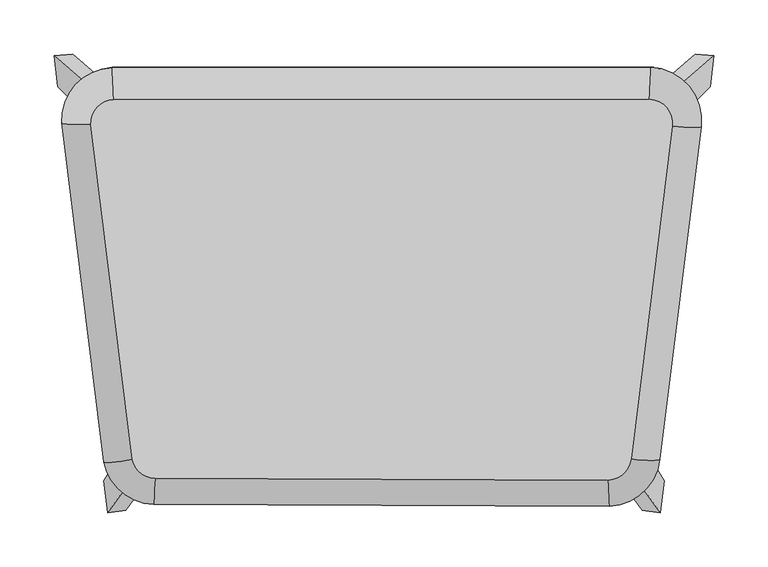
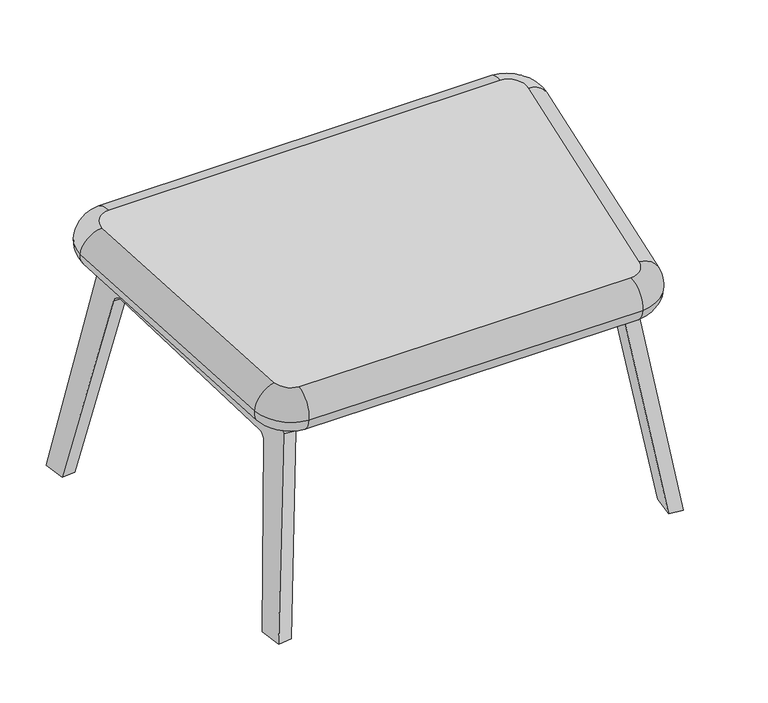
"""IFC4 building model written with IfcOpenShell, lengths in millimetres: furniture geometry, Ottoman_Bensen_Park_PRK000 : Ottoman_Bensen_Park_PRK000."""

from ifc_helpers import new_model, si_unit, point, frame, origin, place, context, project, spatial, polyline, circle_curve, ellipse_curve, trimmed, source, transform, mapped, element, save
from ifc_brep_helpers import plane_surface, cylinder_surface, revolved_surface, advanced_brep


def furniture_a147c030(model_context):
    return source(origin(), model_context, "Body", "AdvancedBrep", [
        advanced_brep(
        [(-232.5387582, -158.711869, 311.3773403), (-211.6892906, -176.5200523, 309.5255155), (207.0878992, -177.9890283, 309.3727607), (228.37479, -158.462074, 311.4033158), (266.3961492, 149.5362763, 343.4312298), (245.3605462, 174.4767701, 346.0247242), (-249.8806396, 174.2379537, 345.9998903), (-271.0377758, 150.9891698, 343.5823123), (-211.6892906, -170.9348547, 255.8151295), (-232.5387582, -153.1266715, 257.6669542), (-271.0377758, 156.5743674, 289.8719263), (-249.8806396, 179.8231512, 292.2895043), (245.3605462, 180.0619676, 292.3143382), (266.3961492, 155.1214739, 289.7208438), (228.37479, -152.8768764, 257.6929297), (207.0878992, -172.4038307, 255.6623747), (-212.9954878, -200.5512022, 279.8809935), (-258.9999981, -161.2573092, 283.967059), (208.2038481, -202.0286745, 279.7273552), (255.1735361, -158.9422999, 284.2077906), (293.1948953, 149.0560504, 316.2357046), (246.7796758, 204.0874412, 321.9582699), (-251.3259128, 203.8472436, 321.9332924), (-298.0092962, 152.5486235, 316.5988879)],
        [
            (0, 1, circle_curve(frame((-210.6066641, -154.2874969, 311.8374187), z_axis=(0.0, -0.1034295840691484, 0.9946367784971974), x_axis=(-0.9800459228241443, -0.1977051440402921, -0.02055882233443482)), 22.3786392)),
            (1, 2, circle_curve(frame((14.1458076, 4461.1745888, 791.7868175), z_axis=(0.0, -0.1034295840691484, 0.9946367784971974), x_axis=(-0.04837767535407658, -0.9934721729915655, -0.10330847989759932)), 4668.1676318)),
            (2, 3, circle_curve(frame((206.1629578, -155.7494308, 311.6853962), z_axis=(0.0, -0.1034295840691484, 0.9946367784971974), x_axis=(0.04133144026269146, -0.9937868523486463, -0.10334120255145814)), 22.3786392)),
            (3, 4),
            (4, 5, circle_curve(frame((244.184317, 152.2489194, 343.7133102), z_axis=(0.0, -0.1034295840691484, 0.9946367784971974), x_axis=(0.992546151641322, -0.12121573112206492, -0.012604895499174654)), 22.3786392)),
            (5, 6, circle_curve(frame((0.0, -4462.2364732, -136.1345248), z_axis=(0.0, -0.1034295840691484, 0.9946367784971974), x_axis=(0.05256035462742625, 0.9932619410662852, 0.10328661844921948)), 4668.1676318)),
            (6, 7, circle_curve(frame((-248.6827416, 152.0112479, 343.6885954), z_axis=(0.0, -0.1034295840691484, 0.9946367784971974), x_axis=(-0.053528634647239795, 0.9932107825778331, 0.10328129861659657)), 22.3786392)),
            (7, 0, circle_curve(frame((1763.8766912, 244.0259974, 353.2569599), z_axis=(0.0, -0.1034295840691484, 0.9946367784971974), x_axis=(-0.9989451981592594, -0.04567203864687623, -0.004749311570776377)), 2037.063165)),
            (8, 9, circle_curve(frame((-210.6066641, -148.7022994, 258.1270327), z_axis=(0.0, 0.1034295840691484, -0.9946367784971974), x_axis=(-0.9800459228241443, -0.1977051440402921, -0.02055882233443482)), 22.3786392)),
            (9, 10, circle_curve(frame((1763.8766912, 249.611195, 299.5465739), z_axis=(0.0, 0.1034295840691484, -0.9946367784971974), x_axis=(-0.9989451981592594, -0.04567203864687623, -0.004749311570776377)), 2037.063165)),
            (10, 11, circle_curve(frame((-248.6827416, 157.5964454, 289.9782094), z_axis=(0.0, 0.1034295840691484, -0.9946367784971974), x_axis=(-0.053528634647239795, 0.9932107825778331, 0.10328129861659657)), 22.3786392)),
            (11, 12, circle_curve(frame((0.0, -4456.6512756, -189.8449109), z_axis=(0.0, 0.1034295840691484, -0.9946367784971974), x_axis=(0.05256035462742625, 0.9932619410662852, 0.10328661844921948)), 4668.1676318)),
            (12, 13, circle_curve(frame((244.184317, 157.834117, 290.0029242), z_axis=(0.0, 0.1034295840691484, -0.9946367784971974), x_axis=(0.992546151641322, -0.12121573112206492, -0.012604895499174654)), 22.3786392)),
            (13, 14),
            (14, 15, circle_curve(frame((206.1629578, -150.1642333, 257.9750101), z_axis=(0.0, 0.1034295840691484, -0.9946367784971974), x_axis=(0.04133144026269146, -0.9937868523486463, -0.10334120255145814)), 22.3786392)),
            (15, 8, circle_curve(frame((14.1458076, 4466.7597864, 738.0764314), z_axis=(0.0, 0.1034295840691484, -0.9946367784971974), x_axis=(-0.04837767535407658, -0.9934721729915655, -0.10330847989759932)), 4668.1676318)),
            (16, 17, circle_curve(frame((-210.6066641, -151.4948982, 284.9822257), z_axis=(0.0, 0.1034295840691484, -0.9946367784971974), x_axis=(-0.9800459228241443, -0.1977051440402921, -0.02055882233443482)), 49.3786392)),
            (17, 9, circle_curve(frame((-232.5387582, -155.9192703, 284.5221472), z_axis=(0.19877119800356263, -0.9747897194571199, -0.10136574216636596), x_axis=(-0.9800459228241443, -0.19770514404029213, -0.020558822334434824)), 27.0)),
            (8, 16, circle_curve(frame((-211.6892906, -173.7274535, 282.6703225), z_axis=(-0.9988291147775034, 0.04811821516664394, 0.005003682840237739), x_axis=(-0.04837767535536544, -0.9934721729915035, -0.10330847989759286)), 27.0)),
            (16, 1, circle_curve(frame((-211.6892906, -173.7274535, 282.6703225), z_axis=(-0.9988291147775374, 0.048118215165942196, 0.00500368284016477), x_axis=(-0.04837767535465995, -0.9934721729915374, -0.1033084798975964)), 27.0)),
            (0, 17, circle_curve(frame((-232.5387582, -155.9192703, 284.5221472), z_axis=(0.19877119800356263, -0.9747897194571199, -0.10136574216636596), x_axis=(-0.9800459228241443, -0.19770514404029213, -0.020558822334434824)), 27.0)),
            (15, 18, circle_curve(frame((207.0878992, -175.1964295, 282.5175677), z_axis=(-0.9991454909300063, -0.04110977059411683, -0.004274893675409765), x_axis=(0.04133144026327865, -0.9937868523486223, -0.10334120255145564)), 27.0)),
            (18, 16, circle_curve(frame((14.1458076, 4463.9671876, 764.9316245), z_axis=(0.0, 0.1034295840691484, -0.9946367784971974), x_axis=(-0.04837767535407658, -0.9934721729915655, -0.10330847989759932)), 4695.1676318)),
            (18, 2, circle_curve(frame((207.0878992, -175.1964295, 282.5175677), z_axis=(-0.9991454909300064, -0.041109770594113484, -0.004274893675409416), x_axis=(0.04133144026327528, -0.9937868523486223, -0.10334120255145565)), 27.0)),
            (14, 19, circle_curve(frame((228.37479, -155.6694752, 284.5481228), z_axis=(-0.12186934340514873, -0.9872229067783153, -0.10265863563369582), x_axis=(0.992546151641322, -0.12121573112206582, -0.012604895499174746)), 27.0)),
            (19, 18, circle_curve(frame((206.1629578, -152.9568321, 284.8302032), z_axis=(0.0, 0.1034295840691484, -0.9946367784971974), x_axis=(0.04133144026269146, -0.9937868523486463, -0.10334120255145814)), 49.3786392)),
            (19, 3, circle_curve(frame((228.37479, -155.6694752, 284.5481228), z_axis=(-0.1218693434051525, -0.9872229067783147, -0.10265863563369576), x_axis=(0.9925461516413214, -0.12121573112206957, -0.012604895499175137)), 27.0)),
            (13, 20, circle_curve(frame((266.3961492, 152.3288751, 316.5760368), z_axis=(-0.12186934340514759, -0.9872229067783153, -0.1026586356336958), x_axis=(0.9925461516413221, -0.1212157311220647, -0.01260489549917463)), 27.0)),
            (20, 19),
            (20, 4, circle_curve(frame((266.3961492, 152.3288751, 316.5760368), z_axis=(-0.12186934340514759, -0.9872229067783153, -0.1026586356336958), x_axis=(0.9925461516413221, -0.1212157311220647, -0.01260489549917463)), 27.0)),
            (12, 21, circle_curve(frame((245.3605462, 177.2693688, 319.1695312), z_axis=(0.9986177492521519, -0.05227846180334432, -0.00543629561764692), x_axis=(0.052560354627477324, 0.9932619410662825, 0.1032866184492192)), 27.0)),
            (21, 20, circle_curve(frame((244.184317, 155.0415182, 316.8581172), z_axis=(0.0, 0.1034295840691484, -0.9946367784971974), x_axis=(0.992546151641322, -0.12121573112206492, -0.012604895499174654)), 49.3786392)),
            (21, 5, circle_curve(frame((245.3605462, 177.2693688, 319.1695312), z_axis=(0.9986177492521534, -0.0522784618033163, -0.005436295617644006), x_axis=(0.052560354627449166, 0.993261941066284, 0.10328661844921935)), 27.0)),
            (11, 22, circle_curve(frame((-249.8806396, 177.0305524, 319.1446973), z_axis=(0.9985663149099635, 0.05324154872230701, 0.0055364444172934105), x_axis=(-0.053528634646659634, 0.9932107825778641, 0.10328129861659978)), 27.0)),
            (22, 21, circle_curve(frame((0.0, -4459.4438744, -162.9897179), z_axis=(0.0, 0.1034295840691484, -0.9946367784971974), x_axis=(0.05256035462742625, 0.9932619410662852, 0.10328661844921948)), 4695.1676318)),
            (22, 6, circle_curve(frame((-249.8806396, 177.0305524, 319.1446973), z_axis=(0.9985663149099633, 0.0532415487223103, 0.005536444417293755), x_axis=(-0.05352863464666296, 0.9932107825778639, 0.10328129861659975)), 27.0)),
            (17, 23, circle_curve(frame((1763.8766912, 246.8185962, 326.4017669), z_axis=(0.0, 0.1034295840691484, -0.9946367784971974), x_axis=(-0.9989451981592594, -0.04567203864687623, -0.004749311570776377)), 2064.063165)),
            (23, 10, circle_curve(frame((-271.0377758, 153.7817686, 316.7271193), z_axis=(0.04591830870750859, -0.9935876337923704, -0.10332048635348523), x_axis=(-0.9989451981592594, -0.04567203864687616, -0.00474931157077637)), 27.0)),
            (7, 23, circle_curve(frame((-271.0377758, 153.7817686, 316.7271193), z_axis=(0.04591830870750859, -0.9935876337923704, -0.10332048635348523), x_axis=(-0.9989451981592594, -0.04567203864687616, -0.00474931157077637)), 27.0)),
            (23, 22, circle_curve(frame((-248.6827416, 154.8038467, 316.8334024), z_axis=(0.0, 0.1034295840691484, -0.9946367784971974), x_axis=(-0.053528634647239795, 0.9932107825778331, 0.10328129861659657)), 49.3786392)),
        ],
        [
            plane_surface(frame((-249.7200537, 171.2583213, 345.6900464), z_axis=(0.0, -0.1034295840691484, 0.9946367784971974), x_axis=(-0.9985663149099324, -0.05324154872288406, -0.005536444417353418))),
            plane_surface(frame((-249.7200537, 176.8435189, 291.9796604), z_axis=(0.0, 0.1034295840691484, -0.9946367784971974), x_axis=(0.9985663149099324, 0.05324154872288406, 0.005536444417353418))),
            revolved_surface(trimmed(ellipse_curve(frame((-232.5387582, -155.9192703, 284.5221472), z_axis=(-0.19877119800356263, 0.9747897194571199, 0.10136574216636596), x_axis=(-0.9800459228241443, -0.19770514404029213, -0.020558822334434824)), 27.0, 27.0), [point((-232.5387582, -153.1266715, 257.6669542))], [point((-258.9999981, -161.2573092, 283.967059))], True, "CARTESIAN"), (-210.6066641, -148.7022994, 258.1270327), (0.0, -0.1034295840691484, 0.9946367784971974)),
            revolved_surface(trimmed(ellipse_curve(frame((-232.5387582, -155.9192703, 284.5221472), z_axis=(-0.19877119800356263, 0.9747897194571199, 0.10136574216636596), x_axis=(-0.9800459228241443, -0.19770514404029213, -0.020558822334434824)), 27.0, 27.0), [point((-258.9999981, -161.2573092, 283.967059))], [point((-232.5387582, -158.711869, 311.3773403))], True, "CARTESIAN"), (-210.6066641, -148.7022994, 258.1270327), (0.0, -0.1034295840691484, 0.9946367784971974)),
            revolved_surface(trimmed(ellipse_curve(frame((-211.6892906, -173.7274535, 282.6703225), z_axis=(-0.9988291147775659, 0.048118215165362, 0.005003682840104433), x_axis=(-0.04837767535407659, -0.9934721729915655, -0.10330847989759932)), 27.0, 27.0), [point((-211.6892906, -170.9348547, 255.8151295))], [point((-212.9954878, -200.5512022, 279.8809935))], True, "CARTESIAN"), (14.1458076, 4466.7597864, 738.0764314), (0.0, -0.1034295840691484, 0.9946367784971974)),
            revolved_surface(trimmed(ellipse_curve(frame((-211.6892906, -173.7274535, 282.6703225), z_axis=(-0.9988291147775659, 0.048118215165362, 0.005003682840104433), x_axis=(-0.04837767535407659, -0.9934721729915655, -0.10330847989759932)), 27.0, 27.0), [point((-212.9954878, -200.5512022, 279.8809935))], [point((-211.6892906, -176.5200523, 309.5255155))], True, "CARTESIAN"), (14.1458076, 4466.7597864, 738.0764314), (0.0, -0.1034295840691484, 0.9946367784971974)),
            revolved_surface(trimmed(ellipse_curve(frame((207.0878992, -175.1964295, 282.5175677), z_axis=(-0.9991454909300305, -0.04110977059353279, -0.00427489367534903), x_axis=(0.04133144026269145, -0.9937868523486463, -0.10334120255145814)), 27.0, 27.0), [point((207.0878992, -172.4038307, 255.6623747))], [point((208.2038481, -202.0286745, 279.7273552))], True, "CARTESIAN"), (206.1629578, -150.1642333, 257.9750101), (0.0, -0.1034295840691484, 0.9946367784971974)),
            revolved_surface(trimmed(ellipse_curve(frame((207.0878992, -175.1964295, 282.5175677), z_axis=(-0.9991454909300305, -0.04110977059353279, -0.00427489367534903), x_axis=(0.04133144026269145, -0.9937868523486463, -0.10334120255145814)), 27.0, 27.0), [point((208.2038481, -202.0286745, 279.7273552))], [point((207.0878992, -177.9890283, 309.3727607))], True, "CARTESIAN"), (206.1629578, -150.1642333, 257.9750101), (0.0, -0.1034295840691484, 0.9946367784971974)),
            cylinder_surface(frame((228.37479, -155.6694752, 284.5481228), z_axis=(-0.12186934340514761, -0.9872229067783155, -0.10265863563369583), x_axis=(0.9925461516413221, -0.1212157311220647, -0.01260489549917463)), 27.0),
            revolved_surface(trimmed(ellipse_curve(frame((266.3961492, 152.3288751, 316.5760368), z_axis=(-0.1218693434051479, -0.9872229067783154, -0.10265863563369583), x_axis=(0.992546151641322, -0.12121573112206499, -0.012604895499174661)), 27.0, 27.0), [point((266.3961492, 155.1214739, 289.7208438))], [point((293.1948953, 149.0560504, 316.2357046))], True, "CARTESIAN"), (244.184317, 157.834117, 290.0029242), (0.0, -0.1034295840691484, 0.9946367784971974)),
            revolved_surface(trimmed(ellipse_curve(frame((266.3961492, 152.3288751, 316.5760368), z_axis=(-0.1218693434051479, -0.9872229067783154, -0.10265863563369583), x_axis=(0.992546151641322, -0.12121573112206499, -0.012604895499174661)), 27.0, 27.0), [point((293.1948953, 149.0560504, 316.2357046))], [point((266.3961492, 149.5362763, 343.4312298))], True, "CARTESIAN"), (244.184317, 157.834117, 290.0029242), (0.0, -0.1034295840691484, 0.9946367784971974)),
            revolved_surface(trimmed(ellipse_curve(frame((245.3605462, 177.2693688, 319.1695312), z_axis=(0.9986177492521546, -0.05227846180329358, -0.005436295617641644), x_axis=(0.05256035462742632, 0.9932619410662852, 0.10328661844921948)), 27.0, 27.0), [point((245.3605462, 180.0619676, 292.3143382))], [point((246.7796758, 204.0874412, 321.9582699))], True, "CARTESIAN"), (0.0, -4456.6512756, -189.8449109), (0.0, -0.1034295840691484, 0.9946367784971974)),
            revolved_surface(trimmed(ellipse_curve(frame((245.3605462, 177.2693688, 319.1695312), z_axis=(0.9986177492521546, -0.05227846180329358, -0.005436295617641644), x_axis=(0.05256035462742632, 0.9932619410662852, 0.10328661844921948)), 27.0, 27.0), [point((246.7796758, 204.0874412, 321.9582699))], [point((245.3605462, 174.4767701, 346.0247242))], True, "CARTESIAN"), (0.0, -4456.6512756, -189.8449109), (0.0, -0.1034295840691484, 0.9946367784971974)),
            revolved_surface(trimmed(ellipse_curve(frame((-271.0377758, 153.7817686, 316.7271193), z_axis=(-0.04591830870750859, 0.9935876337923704, 0.10332048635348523), x_axis=(-0.9989451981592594, -0.04567203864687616, -0.00474931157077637)), 27.0, 27.0), [point((-271.0377758, 156.5743674, 289.8719263))], [point((-298.0092962, 152.5486235, 316.5988879))], True, "CARTESIAN"), (1763.8766912, 249.611195, 299.5465739), (0.0, -0.1034295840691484, 0.9946367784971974)),
            revolved_surface(trimmed(ellipse_curve(frame((-271.0377758, 153.7817686, 316.7271193), z_axis=(-0.04591830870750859, 0.9935876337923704, 0.10332048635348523), x_axis=(-0.9989451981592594, -0.04567203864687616, -0.00474931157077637)), 27.0, 27.0), [point((-298.0092962, 152.5486235, 316.5988879))], [point((-271.0377758, 150.9891698, 343.5823123))], True, "CARTESIAN"), (1763.8766912, 249.611195, 299.5465739), (0.0, -0.1034295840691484, 0.9946367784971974)),
            revolved_surface(trimmed(ellipse_curve(frame((-249.8806396, 177.0305524, 319.1446973), z_axis=(0.9985663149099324, 0.05324154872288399, 0.005536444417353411), x_axis=(-0.053528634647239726, 0.9932107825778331, 0.10328129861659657)), 27.0, 27.0), [point((-249.8806396, 179.8231512, 292.2895043))], [point((-251.3259128, 203.8472436, 321.9332924))], True, "CARTESIAN"), (-248.6827416, 157.5964454, 289.9782094), (0.0, -0.1034295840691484, 0.9946367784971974)),
            revolved_surface(trimmed(ellipse_curve(frame((-249.8806396, 177.0305524, 319.1446973), z_axis=(0.9985663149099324, 0.05324154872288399, 0.005536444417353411), x_axis=(-0.053528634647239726, 0.9932107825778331, 0.10328129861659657)), 27.0, 27.0), [point((-251.3259128, 203.8472436, 321.9332924))], [point((-249.8806396, 174.2379537, 345.9998903))], True, "CARTESIAN"), (-248.6827416, 157.5964454, 289.9782094), (0.0, -0.1034295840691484, 0.9946367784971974)),
        ],
        [
            (0, [[1, 2, 3, 4, 5, 6, 7, 8]]),
            (1, [[9, 10, 11, 12, 13, 14, 15, 16]]),
            (2, [[17, 18, -9, 19]]),
            (3, [[-17, 20, -1, 21]]),
            (4, [[-19, -16, 22, 23]]),
            (5, [[-20, -23, 24, -2]]),
            (6, [[-22, -15, 25, 26]]),
            (7, [[-24, -26, 27, -3]]),
            (8, [[-25, -14, 28, 29]]),
            (8, [[-27, -29, 30, -4]]),
            (9, [[-28, -13, 31, 32]]),
            (10, [[-30, -32, 33, -5]]),
            (11, [[-31, -12, 34, 35]]),
            (12, [[-33, -35, 36, -6]]),
            (13, [[-18, 37, 38, -10]]),
            (14, [[-21, -8, 39, -37]]),
            (15, [[-34, -11, -38, 40]]),
            (16, [[-36, -40, -39, -7]]),
        ],
    ),
        advanced_brep(
        [(-259.8900736, 175.694286, 275.3866877), (-305.025033, 214.6491056, 0.0), (-301.6878398, 186.0949097, 0.0), (-260.4489674, 144.2595393, 246.6637366), (-258.0191927, 133.5979054, 254.696374), (-231.7053525, -125.5286587, 227.7505046), (-231.8555433, -134.402105, 219.6939481), (-259.0688425, -178.5681912, 0.0), (-255.5877375, -208.3537477, 0.0), (-224.66077, -165.2761612, 244.0312393), (-224.3024132, -147.4419364, 260.6070279), (-254.9425925, 154.2884201, 291.9831503), (-243.1606453, 177.649492, 272.9213638), (-238.2131642, 156.2436261, 289.5178264), (-207.5729849, -145.4867304, 258.1417041), (-207.9313417, -163.3209553, 241.5659155), (-238.5458697, -205.9633507, 0.0), (-242.0340366, -176.1173699, 0.0), (-215.126115, -132.446899, 217.2286243), (-214.9759242, -123.5734527, 225.2851807), (-241.2897643, 135.5531114, 252.2310501), (-243.7195391, 146.2147453, 244.1984128), (-284.5462424, 187.6319847, 0.0), (-287.8915463, 216.2555791, 0.0)],
        [
            (0, 1),
            (1, 2),
            (2, 3),
            (3, 4, circle_curve(frame((-259.5705809, 134.4636948, 244.8554592), z_axis=(0.9827681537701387, 0.11485832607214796, -0.14482513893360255), x_axis=(0.11363112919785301, -0.9933818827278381, -0.016745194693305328)), 10.0)),
            (4, 5),
            (5, 6, circle_curve(frame((-233.2567407, -124.6628693, 217.9095898), z_axis=(0.9827681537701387, 0.11485832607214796, -0.14482513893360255), x_axis=(0.11363112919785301, -0.9933818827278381, -0.016745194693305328)), 10.0)),
            (6, 7),
            (7, 8),
            (8, 9),
            (9, 10, circle_curve(frame((-227.4051897, -145.7103576, 240.9251984), z_axis=(-0.9827681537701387, -0.11485832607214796, 0.14482513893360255), x_axis=(0.11363112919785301, -0.9933818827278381, -0.016745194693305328)), 20.0)),
            (10, 11),
            (11, 0, circle_curve(frame((-258.045369, 156.0199989, 272.3013208), z_axis=(-0.9827681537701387, -0.11485832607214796, 0.14482513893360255), x_axis=(0.11363112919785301, -0.9933818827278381, -0.016745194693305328)), 20.0)),
            (12, 13, circle_curve(frame((-241.3159407, 157.9752048, 269.8359969), z_axis=(0.9827681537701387, 0.11485832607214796, -0.14482513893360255), x_axis=(0.11363112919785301, -0.9933818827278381, -0.016745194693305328)), 20.0)),
            (13, 14),
            (14, 15, circle_curve(frame((-210.6757614, -143.7551517, 238.4598745), z_axis=(0.9827681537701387, 0.11485832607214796, -0.14482513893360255), x_axis=(0.11363112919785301, -0.9933818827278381, -0.016745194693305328)), 20.0)),
            (15, 16),
            (16, 17),
            (17, 18),
            (18, 19, circle_curve(frame((-216.5273124, -122.7076634, 215.444266), z_axis=(-0.9827681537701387, -0.11485832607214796, 0.14482513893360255), x_axis=(0.11363112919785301, -0.9933818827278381, -0.016745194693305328)), 10.0)),
            (19, 20),
            (20, 21, circle_curve(frame((-242.8411526, 136.4189007, 242.3901354), z_axis=(-0.9827681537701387, -0.11485832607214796, 0.14482513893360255), x_axis=(0.11363112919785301, -0.9933818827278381, -0.016745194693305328)), 10.0)),
            (21, 22),
            (22, 23),
            (23, 12),
            (11, 13),
            (12, 0),
            (10, 14),
            (9, 15),
            (8, 16),
            (6, 18),
            (17, 7),
            (5, 19),
            (4, 20),
            (3, 21),
            (2, 22),
            (23, 1),
        ],
        [
            plane_surface(frame((-305.025033, 214.6491056, 0.0), z_axis=(-0.9827681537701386, -0.11485832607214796, 0.14482513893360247), x_axis=(-0.1601855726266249, 0.13825203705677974, -0.9773571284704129))),
            plane_surface(frame((-288.2956047, 216.6043115, -2.4653239), z_axis=(0.9827681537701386, 0.11485832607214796, -0.14482513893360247), x_axis=(0.1601855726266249, -0.13825203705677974, 0.9773571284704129))),
            cylinder_surface(frame((-241.3159407, 157.9752048, 269.8359969), z_axis=(-0.9827681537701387, -0.11485832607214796, 0.14482513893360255), x_axis=(0.11363112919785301, -0.9933818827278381, -0.016745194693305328)), 20.0),
            plane_surface(frame((-224.3024132, -147.4419364, 260.6070279), z_axis=(0.15513882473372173, -0.0865789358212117, 0.9840914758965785), x_axis=(0.9827681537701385, 0.1148583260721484, -0.14482513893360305))),
            cylinder_surface(frame((-210.6757614, -143.7551517, 238.4598745), z_axis=(-0.9827681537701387, -0.11485832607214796, 0.14482513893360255), x_axis=(0.11363112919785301, -0.9933818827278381, -0.016745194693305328)), 20.0),
            plane_surface(frame((-256.494103, -209.6162071, -7.1517363), z_axis=(0.1372209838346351, -0.9782901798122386, 0.15530204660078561), x_axis=(0.9827681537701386, 0.11485832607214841, -0.14482513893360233))),
            plane_surface(frame((-231.8555433, -134.402105, 219.6939481), z_axis=(-0.14011974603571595, 0.9739235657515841, -0.17843582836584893), x_axis=(0.9827681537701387, 0.11485832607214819, -0.14482513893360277))),
            revolved_surface(polyline([(-215.39100110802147, -132.64148222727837, 215.27681405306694), (-232.12042946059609, -134.59668817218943, 217.7421379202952)]), (-216.5273124, -122.7076634, 215.444266), (0.9827681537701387, 0.11485832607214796, -0.14482513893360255)),
            plane_surface(frame((-258.0191927, 133.5979054, 254.696374), z_axis=(-0.1551388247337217, 0.08657893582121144, -0.9840914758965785), x_axis=(0.9827681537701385, 0.1148583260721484, -0.14482513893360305))),
            revolved_surface(polyline([(-241.7048412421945, 126.48508188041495, 242.22268344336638), (-258.43426965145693, 124.52987592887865, 244.6880073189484)]), (-242.8411526, 136.4189007, 242.3901354), (0.9827681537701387, 0.11485832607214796, -0.14482513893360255)),
            plane_surface(frame((-301.7680825, 186.1763131, -0.4799589), z_axis=(0.08783865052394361, -0.9795844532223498, -0.18082773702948), x_axis=(0.9827681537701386, 0.11485832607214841, -0.14482513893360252))),
            plane_surface(frame((-259.8900736, 175.694286, 275.3866877), z_axis=(-0.09223523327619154, 0.9837143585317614, 0.1542683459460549), x_axis=(0.9827681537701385, 0.1148583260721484, -0.14482513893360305))),
            plane_surface(frame((334.4408435, 236.6618524, 0.0), z_axis=(0.0, 0.0, -1.0), x_axis=(-1.0, 0.0, 0.0))),
        ],
        [
            (0, [[1, 2, 3, 4, 5, 6, 7, 8, 9, 10, 11, 12]]),
            (1, [[13, 14, 15, 16, 17, 18, 19, 20, 21, 22, 23, 24]]),
            (2, [[-12, 25, -13, 26]]),
            (3, [[-11, 27, -14, -25]]),
            (4, [[-10, 28, -15, -27]]),
            (5, [[-28, -9, 29, -16]]),
            (6, [[30, -18, 31, -7]]),
            (7, [[-6, 32, -19, -30]]),
            (8, [[-5, 33, -20, -32]]),
            (9, [[-4, 34, -21, -33]]),
            (10, [[-34, -3, 35, -22]]),
            (11, [[-1, -26, -24, 36]]),
            (12, [[-2, -36, -23, -35]]),
            (12, [[-8, -31, -17, -29]]),
        ],
    ),
        advanced_brep(
        [(259.8900736, 175.694286, 275.3866877), (254.9425925, 154.2884201, 291.9831503), (224.3024132, -147.4419364, 260.6070279), (224.66077, -165.2761612, 244.0312393), (255.5877375, -208.3537477, 0.0), (259.0688425, -178.5681912, 0.0), (231.8555433, -134.402105, 219.6939481), (231.7053525, -125.5286587, 227.7505046), (258.0191927, 133.5979054, 254.696374), (260.4489674, 144.2595393, 246.6637366), (301.6878398, 186.0949097, 0.0), (305.025033, 214.6491056, 0.0), (243.7195391, 146.2147453, 244.1984128), (241.2897643, 135.5531114, 252.2310501), (214.9759242, -123.5734527, 225.2851807), (215.126115, -132.446899, 217.2286243), (242.0340366, -176.1173699, 0.0), (238.5458697, -205.9633507, 0.0), (207.9313417, -163.3209553, 241.5659155), (207.5729849, -145.4867304, 258.1417041), (238.2131642, 156.2436261, 289.5178264), (243.1606453, 177.649492, 272.9213638), (287.8915463, 216.2555791, 0.0), (284.5462424, 187.6319847, 0.0)],
        [
            (0, 1, circle_curve(frame((258.045369, 156.0199989, 272.3013208), z_axis=(0.9827681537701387, -0.11485832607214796, 0.14482513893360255), x_axis=(-0.11363112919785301, -0.9933818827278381, -0.016745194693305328)), 20.0)),
            (1, 2),
            (2, 3, circle_curve(frame((227.4051897, -145.7103576, 240.9251984), z_axis=(0.9827681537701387, -0.11485832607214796, 0.14482513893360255), x_axis=(-0.11363112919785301, -0.9933818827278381, -0.016745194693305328)), 20.0)),
            (3, 4),
            (4, 5),
            (5, 6),
            (6, 7, circle_curve(frame((233.2567407, -124.6628693, 217.9095898), z_axis=(-0.9827681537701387, 0.11485832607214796, -0.14482513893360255), x_axis=(-0.11363112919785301, -0.9933818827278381, -0.016745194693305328)), 10.0)),
            (7, 8),
            (8, 9, circle_curve(frame((259.5705809, 134.4636948, 244.8554592), z_axis=(-0.9827681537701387, 0.11485832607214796, -0.14482513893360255), x_axis=(-0.11363112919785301, -0.9933818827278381, -0.016745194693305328)), 10.0)),
            (9, 10),
            (10, 11),
            (11, 0),
            (12, 13, circle_curve(frame((242.8411526, 136.4189007, 242.3901354), z_axis=(0.9827681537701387, -0.11485832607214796, 0.14482513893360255), x_axis=(-0.11363112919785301, -0.9933818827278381, -0.016745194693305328)), 10.0)),
            (13, 14),
            (14, 15, circle_curve(frame((216.5273124, -122.7076634, 215.444266), z_axis=(0.9827681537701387, -0.11485832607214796, 0.14482513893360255), x_axis=(-0.11363112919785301, -0.9933818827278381, -0.016745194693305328)), 10.0)),
            (15, 16),
            (16, 17),
            (17, 18),
            (18, 19, circle_curve(frame((210.6757614, -143.7551517, 238.4598745), z_axis=(-0.9827681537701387, 0.11485832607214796, -0.14482513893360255), x_axis=(-0.11363112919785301, -0.9933818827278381, -0.016745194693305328)), 20.0)),
            (19, 20),
            (20, 21, circle_curve(frame((241.3159407, 157.9752048, 269.8359969), z_axis=(-0.9827681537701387, 0.11485832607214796, -0.14482513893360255), x_axis=(-0.11363112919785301, -0.9933818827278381, -0.016745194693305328)), 20.0)),
            (21, 22),
            (22, 23),
            (23, 12),
            (0, 21),
            (20, 1),
            (19, 2),
            (18, 3),
            (17, 4),
            (15, 6),
            (5, 16),
            (14, 7),
            (13, 8),
            (12, 9),
            (23, 10),
            (11, 22),
        ],
        [
            plane_surface(frame((255.7727464, 136.1523612, 271.9664169), z_axis=(0.9827681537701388, -0.11485832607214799, 0.14482513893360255), x_axis=(0.14578999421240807, 0.0, -0.9893155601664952))),
            plane_surface(frame((239.0433181, 138.1075671, 269.501093), z_axis=(-0.9827681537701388, 0.11485832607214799, -0.14482513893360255), x_axis=(-0.14578999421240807, 0.0, 0.9893155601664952))),
            cylinder_surface(frame((241.3159407, 157.9752048, 269.8359969), z_axis=(0.9827681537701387, -0.11485832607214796, 0.14482513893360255), x_axis=(-0.11363112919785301, -0.9933818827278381, -0.016745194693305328)), 20.0),
            plane_surface(frame((254.9425925, 154.2884201, 291.9831503), z_axis=(-0.15513882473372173, -0.0865789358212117, 0.9840914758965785), x_axis=(-0.9827681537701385, 0.1148583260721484, -0.14482513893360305))),
            cylinder_surface(frame((210.6757614, -143.7551517, 238.4598745), z_axis=(0.9827681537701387, -0.11485832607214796, 0.14482513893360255), x_axis=(-0.11363112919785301, -0.9933818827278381, -0.016745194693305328)), 20.0),
            plane_surface(frame((224.66077, -165.2761612, 244.0312393), z_axis=(-0.1372209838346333, -0.9782901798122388, 0.1553020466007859), x_axis=(-0.9827681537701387, 0.11485832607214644, -0.1448251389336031))),
            plane_surface(frame((259.8926845, -179.9052535, -6.650906), z_axis=(0.14011974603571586, 0.973923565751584, -0.17843582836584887), x_axis=(-0.9827681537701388, 0.11485832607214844, -0.14482513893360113))),
            revolved_surface(polyline([(215.39100110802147, -132.64148222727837, 215.27681405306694), (232.12042946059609, -134.59668817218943, 217.7421379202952)]), (216.5273124, -122.7076634, 215.444266), (-0.9827681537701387, 0.11485832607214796, -0.14482513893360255)),
            plane_surface(frame((231.7053525, -125.5286587, 227.7505046), z_axis=(0.15513882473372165, 0.08657893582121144, -0.9840914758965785), x_axis=(-0.9827681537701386, 0.11485832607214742, -0.14482513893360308))),
            revolved_surface(polyline([(241.7048412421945, 126.48508188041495, 242.22268344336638), (258.43426965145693, 124.52987592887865, 244.6880073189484)]), (242.8411526, 136.4189007, 242.3901354), (-0.9827681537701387, 0.11485832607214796, -0.14482513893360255)),
            plane_surface(frame((260.4489674, 144.2595393, 246.6637366), z_axis=(-0.08783865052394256, -0.9795844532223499, -0.1808277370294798), x_axis=(-0.9827681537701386, 0.11485832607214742, -0.14482513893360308))),
            plane_surface(frame((305.025033, 214.6491056, 0.0), z_axis=(0.09223523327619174, 0.9837143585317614, 0.15426834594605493), x_axis=(-0.9827681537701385, 0.11485832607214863, -0.14482513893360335))),
            plane_surface(frame((334.4408435, 236.6618524, 0.0), z_axis=(0.0, 0.0, -1.0), x_axis=(-1.0, 0.0, 0.0))),
        ],
        [
            (0, [[1, 2, 3, 4, 5, 6, 7, 8, 9, 10, 11, 12]]),
            (1, [[13, 14, 15, 16, 17, 18, 19, 20, 21, 22, 23, 24]]),
            (2, [[-1, 25, -21, 26]]),
            (3, [[-2, -26, -20, 27]]),
            (4, [[-3, -27, -19, 28]]),
            (5, [[-28, -18, 29, -4]]),
            (6, [[30, -6, 31, -16]]),
            (7, [[-7, -30, -15, 32]]),
            (8, [[-8, -32, -14, 33]]),
            (9, [[-9, -33, -13, 34]]),
            (10, [[-34, -24, 35, -10]]),
            (11, [[-12, 36, -22, -25]]),
            (12, [[-5, -29, -17, -31]]),
            (12, [[-11, -35, -23, -36]]),
        ],
    ),
    ])


if __name__ == "__main__":
    model = new_model("IFC4")
    model_context = context("Model", 3, world=origin())
    ifc_project = project(units=[si_unit("LENGTHUNIT", "METRE", prefix="MILLI")], contexts=[model_context])
    site = spatial("IfcSite", under=ifc_project)
    building = spatial("IfcBuilding", under=site)
    placement = place(None, origin())
    furniture_shape = furniture_a147c030(model_context)
    element("IfcFurniture", 1, ObjectType="Ottoman_Bensen_Park_PRK000 : Ottoman_Bensen_Park_PRK000", at=placement, inside=building, context=model_context, shape_type="MappedRepresentation", body=[
        mapped(furniture_shape, transform((0.0, 0.0, 0.0), x_axis=(1.0, 0.0, 0.0), y_axis=(0.0, 1.0, 0.0), z_axis=(0.0, 0.0, 1.0))),
    ])
    save(model, "model.ifc")
